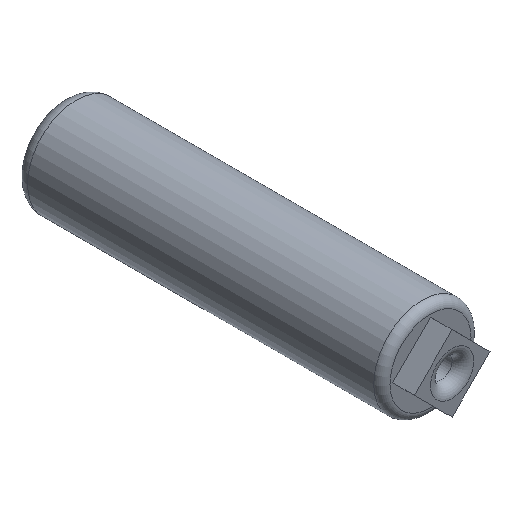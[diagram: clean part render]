
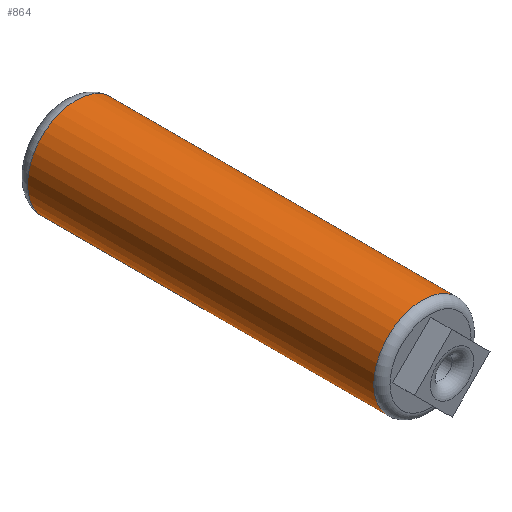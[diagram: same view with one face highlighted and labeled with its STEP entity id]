
A CAD part, isometric view. The second image highlights one B-rep face of the part: STEP entity #864.
In plain terms, the highlighted cylindrical face has radius 22.86 mm (diameter 45.72 mm), a full revolution.
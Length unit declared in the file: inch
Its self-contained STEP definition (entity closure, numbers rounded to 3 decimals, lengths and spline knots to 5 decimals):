
#45=CIRCLE('',#937,0.9);
#46=CIRCLE('',#938,0.9);
#47=CIRCLE('',#939,0.9);
#49=CIRCLE('',#942,0.9);
#50=CIRCLE('',#943,0.9);
#98=FACE_OUTER_BOUND('',#147,.T.);
#147=EDGE_LOOP('',(#654,#655,#656,#657,#658,#659,#660));
#256=LINE('',#2632,#300);
#300=VECTOR('',#1099,0.9);
#376=VERTEX_POINT('',#2622);
#377=VERTEX_POINT('',#2624);
#378=VERTEX_POINT('',#2626);
#379=VERTEX_POINT('',#2631);
#380=VERTEX_POINT('',#2633);
#490=EDGE_CURVE('',#376,#377,#45,.T.);
#491=EDGE_CURVE('',#377,#378,#46,.T.);
#492=EDGE_CURVE('',#378,#376,#47,.T.);
#494=EDGE_CURVE('',#377,#379,#256,.T.);
#495=EDGE_CURVE('',#380,#379,#49,.T.);
#496=EDGE_CURVE('',#379,#380,#50,.T.);
#654=ORIENTED_EDGE('',*,*,#492,.F.);
#655=ORIENTED_EDGE('',*,*,#491,.F.);
#656=ORIENTED_EDGE('',*,*,#494,.T.);
#657=ORIENTED_EDGE('',*,*,#495,.F.);
#658=ORIENTED_EDGE('',*,*,#496,.F.);
#659=ORIENTED_EDGE('',*,*,#494,.F.);
#660=ORIENTED_EDGE('',*,*,#490,.F.);
#830=CYLINDRICAL_SURFACE('',#941,0.9);
#864=ADVANCED_FACE('',(#98),#830,.T.);
#937=AXIS2_PLACEMENT_3D('',#2625,#1089,#1090);
#938=AXIS2_PLACEMENT_3D('',#2627,#1091,#1092);
#939=AXIS2_PLACEMENT_3D('',#2628,#1093,#1094);
#941=AXIS2_PLACEMENT_3D('',#2630,#1097,#1098);
#942=AXIS2_PLACEMENT_3D('',#2634,#1100,#1101);
#943=AXIS2_PLACEMENT_3D('',#2635,#1102,#1103);
#1089=DIRECTION('center_axis',(0.,1.,0.));
#1090=DIRECTION('ref_axis',(-1.,0.,0.));
#1091=DIRECTION('center_axis',(0.,1.,0.));
#1092=DIRECTION('ref_axis',(-1.,0.,0.));
#1093=DIRECTION('center_axis',(0.,1.,0.));
#1094=DIRECTION('ref_axis',(-1.,0.,0.));
#1097=DIRECTION('center_axis',(0.,1.,0.));
#1098=DIRECTION('ref_axis',(1.,0.,0.));
#1099=DIRECTION('',(0.,-1.,0.));
#1100=DIRECTION('center_axis',(0.,-1.,0.));
#1101=DIRECTION('ref_axis',(1.,0.,0.));
#1102=DIRECTION('center_axis',(0.,-1.,0.));
#1103=DIRECTION('ref_axis',(1.,0.,0.));
#2622=CARTESIAN_POINT('',(0.,6.55,-0.9));
#2624=CARTESIAN_POINT('',(-0.9,6.55,0.));
#2625=CARTESIAN_POINT('Origin',(0.,6.55,0.));
#2626=CARTESIAN_POINT('',(0.9,6.55,0.));
#2627=CARTESIAN_POINT('Origin',(0.,6.55,0.));
#2628=CARTESIAN_POINT('Origin',(0.,6.55,0.));
#2630=CARTESIAN_POINT('Origin',(0.,0.,0.));
#2631=CARTESIAN_POINT('',(-0.9,0.15,0.));
#2632=CARTESIAN_POINT('',(-0.9,0.,0.));
#2633=CARTESIAN_POINT('',(0.,0.15,-0.9));
#2634=CARTESIAN_POINT('Origin',(0.,0.15,0.));
#2635=CARTESIAN_POINT('Origin',(0.,0.15,0.));
